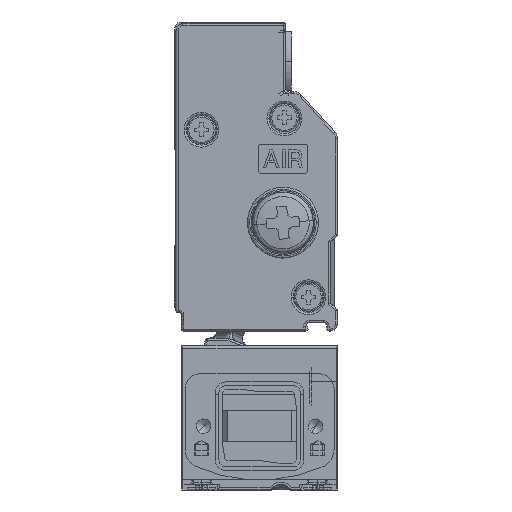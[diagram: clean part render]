
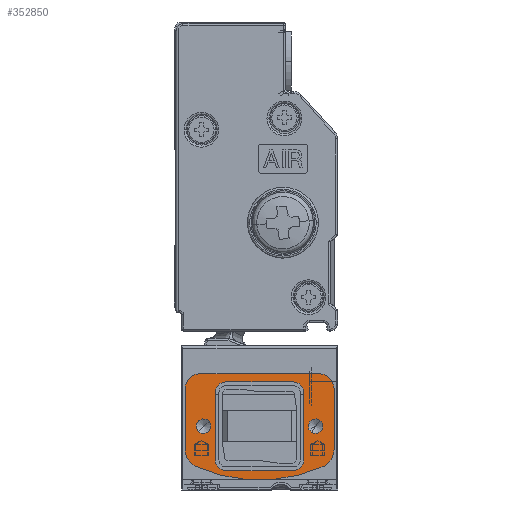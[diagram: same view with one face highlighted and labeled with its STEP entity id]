
A CAD part, left-side view. The second image highlights one B-rep face of the part: STEP entity #352850.
In plain terms, the highlighted planar face has unit normal (-1, 0, 0) as drawn and (1, 0, 0) by its records, which use the part's own axes.
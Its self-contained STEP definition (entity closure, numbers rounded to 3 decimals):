
#350310=CARTESIAN_POINT('',(82.4,21.5,0.));
#350320=DIRECTION('',(0.,0.,-1.));
#350330=VECTOR('',#350320,1.);
#350340=LINE('',#350310,#350330);
#350350=CARTESIAN_POINT('',(82.4,21.5,0.828));
#350360=VERTEX_POINT('',#350350);
#350370=CARTESIAN_POINT('',(82.4,21.5,-7.8));
#350380=VERTEX_POINT('',#350370);
#350390=EDGE_CURVE('',#350360,#350380,#350340,.T.);
#350620=CARTESIAN_POINT('',(82.4,11.,-17.));
#350630=DIRECTION('',(1.,0.,0.));
#350640=DIRECTION('',(0.,-1.,0.));
#350650=AXIS2_PLACEMENT_3D('',#350620,#350630,#350640);
#350660=CIRCLE('',#350650,22.1);
#350670=CARTESIAN_POINT('',(82.4,19.953,3.205));
#350680=VERTEX_POINT('',#350670);
#350690=CARTESIAN_POINT('',(82.4,2.047,3.205));
#350700=VERTEX_POINT('',#350690);
#350710=EDGE_CURVE('',#350680,#350700,#350660,.T.);
#350940=CARTESIAN_POINT('',(82.4,0.5,0.));
#350950=DIRECTION('',(0.,0.,1.));
#350960=VECTOR('',#350950,1.);
#350970=LINE('',#350940,#350960);
#350980=CARTESIAN_POINT('',(82.4,0.5,-7.8));
#350990=VERTEX_POINT('',#350980);
#351000=CARTESIAN_POINT('',(82.4,0.5,0.828));
#351010=VERTEX_POINT('',#351000);
#351020=EDGE_CURVE('',#350990,#351010,#350970,.T.);
#351270=CARTESIAN_POINT('',(82.4,2.6,-7.8));
#351280=DIRECTION('',(-1.,0.,0.));
#351290=DIRECTION('',(0.,1.,0.));
#351300=AXIS2_PLACEMENT_3D('',#351270,#351280,#351290);
#351310=CIRCLE('',#351300,2.1);
#351320=CARTESIAN_POINT('',(82.4,2.6,-9.9));
#351330=VERTEX_POINT('',#351320);
#351340=EDGE_CURVE('',#351330,#350990,#351310,.T.);
#351450=CARTESIAN_POINT('',(82.4,1.583,-10.204));
#351460=DIRECTION('',(1.,0.,0.));
#351470=DIRECTION('',(0.,-1.,0.));
#351480=AXIS2_PLACEMENT_3D('',#351450,#351460,#351470);
#351490=PLANE('',#351480);
#351500=CARTESIAN_POINT('',(82.4,15.75,-7.25));
#351510=DIRECTION('',(-1.,0.,0.));
#351520=DIRECTION('',(0.,1.,0.));
#351530=AXIS2_PLACEMENT_3D('',#351500,#351510,#351520);
#351540=CIRCLE('',#351530,1.5);
#351550=CARTESIAN_POINT('',(82.4,17.25,-7.25));
#351560=VERTEX_POINT('',#351550);
#351570=CARTESIAN_POINT('',(82.4,15.75,-8.75));
#351580=VERTEX_POINT('',#351570);
#351590=EDGE_CURVE('',#351560,#351580,#351540,.T.);
#351600=ORIENTED_EDGE('',*,*,#351590,.T.);
#351610=CARTESIAN_POINT('',(82.4,17.25,0.));
#351620=DIRECTION('',(0.,0.,-1.));
#351630=VECTOR('',#351620,1.);
#351640=LINE('',#351610,#351630);
#351650=CARTESIAN_POINT('',(82.4,17.25,2.25));
#351660=VERTEX_POINT('',#351650);
#351670=EDGE_CURVE('',#351660,#351560,#351640,.T.);
#351680=ORIENTED_EDGE('',*,*,#351670,.T.);
#351690=CARTESIAN_POINT('',(82.4,15.75,2.25));
#351700=DIRECTION('',(-1.,0.,0.));
#351710=DIRECTION('',(0.,1.,0.));
#351720=AXIS2_PLACEMENT_3D('',#351690,#351700,#351710);
#351730=CIRCLE('',#351720,1.5);
#351740=CARTESIAN_POINT('',(82.4,15.75,3.75));
#351750=VERTEX_POINT('',#351740);
#351760=EDGE_CURVE('',#351750,#351660,#351730,.T.);
#351770=ORIENTED_EDGE('',*,*,#351760,.T.);
#351780=CARTESIAN_POINT('',(82.4,0.,3.75));
#351790=DIRECTION('',(0.,1.,0.));
#351800=VECTOR('',#351790,1.);
#351810=LINE('',#351780,#351800);
#351820=CARTESIAN_POINT('',(82.4,6.25,3.75));
#351830=VERTEX_POINT('',#351820);
#351840=EDGE_CURVE('',#351830,#351750,#351810,.T.);
#351850=ORIENTED_EDGE('',*,*,#351840,.T.);
#351860=CARTESIAN_POINT('',(82.4,6.25,2.25));
#351870=DIRECTION('',(-1.,0.,0.));
#351880=DIRECTION('',(0.,1.,0.));
#351890=AXIS2_PLACEMENT_3D('',#351860,#351870,#351880);
#351900=CIRCLE('',#351890,1.5);
#351910=CARTESIAN_POINT('',(82.4,4.75,2.25));
#351920=VERTEX_POINT('',#351910);
#351930=EDGE_CURVE('',#351920,#351830,#351900,.T.);
#351940=ORIENTED_EDGE('',*,*,#351930,.T.);
#351950=CARTESIAN_POINT('',(82.4,4.75,0.));
#351960=DIRECTION('',(0.,0.,1.));
#351970=VECTOR('',#351960,1.);
#351980=LINE('',#351950,#351970);
#351990=CARTESIAN_POINT('',(82.4,4.75,-7.25));
#352000=VERTEX_POINT('',#351990);
#352010=EDGE_CURVE('',#352000,#351920,#351980,.T.);
#352020=ORIENTED_EDGE('',*,*,#352010,.T.);
#352030=CARTESIAN_POINT('',(82.4,6.25,-7.25));
#352040=DIRECTION('',(-1.,0.,0.));
#352050=DIRECTION('',(0.,1.,0.));
#352060=AXIS2_PLACEMENT_3D('',#352030,#352040,#352050);
#352070=CIRCLE('',#352060,1.5);
#352080=CARTESIAN_POINT('',(82.4,6.25,-8.75));
#352090=VERTEX_POINT('',#352080);
#352100=EDGE_CURVE('',#352090,#352000,#352070,.T.);
#352110=ORIENTED_EDGE('',*,*,#352100,.T.);
#352120=CARTESIAN_POINT('',(82.4,0.,-8.75));
#352130=DIRECTION('',(0.,-1.,0.));
#352140=VECTOR('',#352130,1.);
#352150=LINE('',#352120,#352140);
#352160=EDGE_CURVE('',#351580,#352090,#352150,.T.);
#352170=ORIENTED_EDGE('',*,*,#352160,.T.);
#352180=EDGE_LOOP('',(#352170,#352110,#352020,#351940,#351850,#351770,
#351680,#351600));
#352190=FACE_BOUND('',#352180,.T.);
#352200=CARTESIAN_POINT('',(82.4,19.4,-7.8));
#352210=DIRECTION('',(-1.,0.,0.));
#352220=DIRECTION('',(0.,1.,0.));
#352230=AXIS2_PLACEMENT_3D('',#352200,#352210,#352220);
#352240=CIRCLE('',#352230,2.1);
#352250=CARTESIAN_POINT('',(82.4,19.4,-9.9));
#352260=VERTEX_POINT('',#352250);
#352270=EDGE_CURVE('',#350380,#352260,#352240,.T.);
#352280=ORIENTED_EDGE('',*,*,#352270,.F.);
#352290=CARTESIAN_POINT('',(82.4,0.,-9.9));
#352300=DIRECTION('',(0.,-1.,0.));
#352310=VECTOR('',#352300,1.);
#352320=LINE('',#352290,#352310);
#352330=EDGE_CURVE('',#352260,#351330,#352320,.T.);
#352340=ORIENTED_EDGE('',*,*,#352330,.F.);
#352350=ORIENTED_EDGE('',*,*,#351340,.F.);
#352360=ORIENTED_EDGE('',*,*,#351020,.F.);
#352370=CARTESIAN_POINT('',(82.4,3.1,0.828));
#352380=DIRECTION('',(1.,0.,0.));
#352390=DIRECTION('',(0.,-1.,0.));
#352400=AXIS2_PLACEMENT_3D('',#352370,#352380,#352390);
#352410=CIRCLE('',#352400,2.6);
#352420=EDGE_CURVE('',#350700,#351010,#352410,.T.);
#352430=ORIENTED_EDGE('',*,*,#352420,.T.);
#352440=ORIENTED_EDGE('',*,*,#350710,.T.);
#352450=CARTESIAN_POINT('',(82.4,18.9,0.828));
#352460=DIRECTION('',(1.,0.,0.));
#352470=DIRECTION('',(0.,-1.,0.));
#352480=AXIS2_PLACEMENT_3D('',#352450,#352460,#352470);
#352490=CIRCLE('',#352480,2.6);
#352500=EDGE_CURVE('',#350360,#350680,#352490,.T.);
#352510=ORIENTED_EDGE('',*,*,#352500,.T.);
#352520=ORIENTED_EDGE('',*,*,#350390,.F.);
#352530=EDGE_LOOP('',(#352520,#352510,#352440,#352430,#352360,#352350,
#352340,#352280));
#352540=FACE_OUTER_BOUND('',#352530,.T.);
#352550=CARTESIAN_POINT('',(82.4,3.1,-2.5));
#352560=DIRECTION('',(1.,0.,0.));
#352570=DIRECTION('',(0.,-0.577,-0.817));
#352580=AXIS2_PLACEMENT_3D('',#352550,#352560,#352570);
#352590=CIRCLE('',#352580,1.04);
#352600=CARTESIAN_POINT('',(82.4,2.5,-3.35));
#352610=VERTEX_POINT('',#352600);
#352620=CARTESIAN_POINT('',(82.4,3.7,-1.65));
#352630=VERTEX_POINT('',#352620);
#352640=EDGE_CURVE('',#352610,#352630,#352590,.T.);
#352650=ORIENTED_EDGE('',*,*,#352640,.F.);
#352660=EDGE_CURVE('',#352630,#352610,#352590,.T.);
#352670=ORIENTED_EDGE('',*,*,#352660,.F.);
#352680=EDGE_LOOP('',(#352670,#352650));
#352690=FACE_BOUND('',#352680,.T.);
#352700=CARTESIAN_POINT('',(82.4,18.9,-2.5));
#352710=DIRECTION('',(1.,0.,0.));
#352720=DIRECTION('',(0.,-0.762,-0.647));
#352730=AXIS2_PLACEMENT_3D('',#352700,#352710,#352720);
#352740=CIRCLE('',#352730,1.04);
#352750=CARTESIAN_POINT('',(82.4,18.107,-3.173));
#352760=VERTEX_POINT('',#352750);
#352770=CARTESIAN_POINT('',(82.4,19.693,-1.827));
#352780=VERTEX_POINT('',#352770);
#352790=EDGE_CURVE('',#352760,#352780,#352740,.T.);
#352800=ORIENTED_EDGE('',*,*,#352790,.F.);
#352810=EDGE_CURVE('',#352780,#352760,#352740,.T.);
#352820=ORIENTED_EDGE('',*,*,#352810,.F.);
#352830=EDGE_LOOP('',(#352820,#352800));
#352840=FACE_BOUND('',#352830,.T.);
#352850=ADVANCED_FACE('',(#352190,#352540,#352690,#352840),#351490,.T.);
